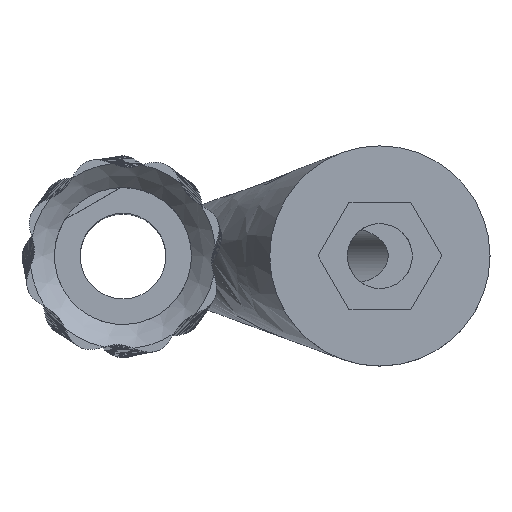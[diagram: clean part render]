
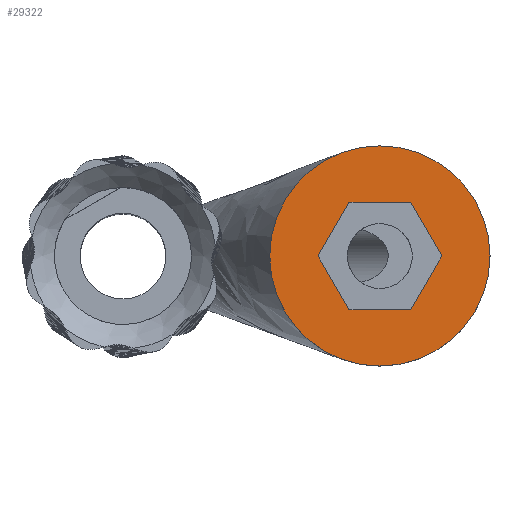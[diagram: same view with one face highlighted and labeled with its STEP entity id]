
A CAD part, top view. The second image highlights one B-rep face of the part: STEP entity #29322.
In plain terms, the highlighted planar face has unit normal (0, 0, 1).
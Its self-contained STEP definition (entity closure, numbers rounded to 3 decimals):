
#26232 = CYLINDRICAL_SURFACE('',#26233,18.);
#26233 = AXIS2_PLACEMENT_3D('',#26234,#26235,#26236);
#26234 = CARTESIAN_POINT('',(42.,0.,72.));
#26235 = DIRECTION('',(-0.,-0.,-1.));
#26236 = DIRECTION('',(1.,0.,0.));
#29272 = VERTEX_POINT('',#29273);
#29273 = CARTESIAN_POINT('',(60.,0.,80.));
#29294 = EDGE_CURVE('',#29272,#29272,#29295,.T.);
#29295 = SURFACE_CURVE('',#29296,(#29301,#29308),.PCURVE_S1.);
#29296 = CIRCLE('',#29297,18.);
#29297 = AXIS2_PLACEMENT_3D('',#29298,#29299,#29300);
#29298 = CARTESIAN_POINT('',(42.,0.,80.));
#29299 = DIRECTION('',(0.,0.,1.));
#29300 = DIRECTION('',(1.,0.,0.));
#29301 = PCURVE('',#26232,#29302);
#29302 = DEFINITIONAL_REPRESENTATION('',(#29303),#29307);
#29303 = LINE('',#29304,#29305);
#29304 = CARTESIAN_POINT('',(-0.,-8.));
#29305 = VECTOR('',#29306,1.);
#29306 = DIRECTION('',(-1.,0.));
#29307 = ( GEOMETRIC_REPRESENTATION_CONTEXT(2) 
PARAMETRIC_REPRESENTATION_CONTEXT() REPRESENTATION_CONTEXT('2D SPACE',''
  ) );
#29308 = PCURVE('',#29309,#29314);
#29309 = PLANE('',#29310);
#29310 = AXIS2_PLACEMENT_3D('',#29311,#29312,#29313);
#29311 = CARTESIAN_POINT('',(42.,0.,80.));
#29312 = DIRECTION('',(0.,0.,1.));
#29313 = DIRECTION('',(1.,0.,-0.));
#29314 = DEFINITIONAL_REPRESENTATION('',(#29315),#29319);
#29315 = CIRCLE('',#29316,18.);
#29316 = AXIS2_PLACEMENT_2D('',#29317,#29318);
#29317 = CARTESIAN_POINT('',(0.,0.));
#29318 = DIRECTION('',(1.,0.));
#29319 = ( GEOMETRIC_REPRESENTATION_CONTEXT(2) 
PARAMETRIC_REPRESENTATION_CONTEXT() REPRESENTATION_CONTEXT('2D SPACE',''
  ) );
#29322 = ADVANCED_FACE('',(#29323,#29326),#29309,.T.);
#29323 = FACE_BOUND('',#29324,.T.);
#29324 = EDGE_LOOP('',(#29325));
#29325 = ORIENTED_EDGE('',*,*,#29294,.T.);
#29326 = FACE_BOUND('',#29327,.T.);
#29327 = EDGE_LOOP('',(#29328,#29356,#29382,#29408,#29434,#29460));
#29328 = ORIENTED_EDGE('',*,*,#29329,.T.);
#29329 = EDGE_CURVE('',#29330,#29332,#29334,.T.);
#29330 = VERTEX_POINT('',#29331);
#29331 = CARTESIAN_POINT('',(36.943,8.76,80.));
#29332 = VERTEX_POINT('',#29333);
#29333 = CARTESIAN_POINT('',(47.057,8.76,80.));
#29334 = SURFACE_CURVE('',#29335,(#29339,#29345),.PCURVE_S1.);
#29335 = LINE('',#29336,#29337);
#29336 = CARTESIAN_POINT('',(44.529,8.76,80.));
#29337 = VECTOR('',#29338,1.);
#29338 = DIRECTION('',(1.,0.,-0.));
#29339 = PCURVE('',#29309,#29340);
#29340 = DEFINITIONAL_REPRESENTATION('',(#29341),#29344);
#29341 = B_SPLINE_CURVE_WITH_KNOTS('',1,(#29342,#29343),.UNSPECIFIED.,
  .F.,.F.,(2,2),(-7.586,2.529),
  .PIECEWISE_BEZIER_KNOTS.);
#29342 = CARTESIAN_POINT('',(-5.057,8.76));
#29343 = CARTESIAN_POINT('',(5.057,8.76));
#29344 = ( GEOMETRIC_REPRESENTATION_CONTEXT(2) 
PARAMETRIC_REPRESENTATION_CONTEXT() REPRESENTATION_CONTEXT('2D SPACE',''
  ) );
#29345 = PCURVE('',#29346,#29351);
#29346 = PLANE('',#29347);
#29347 = AXIS2_PLACEMENT_3D('',#29348,#29349,#29350);
#29348 = CARTESIAN_POINT('',(47.057,8.76,74.));
#29349 = DIRECTION('',(0.,-1.,0.));
#29350 = DIRECTION('',(-1.,0.,0.));
#29351 = DEFINITIONAL_REPRESENTATION('',(#29352),#29355);
#29352 = B_SPLINE_CURVE_WITH_KNOTS('',1,(#29353,#29354),.UNSPECIFIED.,
  .F.,.F.,(2,2),(-7.586,2.529),
  .PIECEWISE_BEZIER_KNOTS.);
#29353 = CARTESIAN_POINT('',(10.115,-6.));
#29354 = CARTESIAN_POINT('',(0.,-6.));
#29355 = ( GEOMETRIC_REPRESENTATION_CONTEXT(2) 
PARAMETRIC_REPRESENTATION_CONTEXT() REPRESENTATION_CONTEXT('2D SPACE',''
  ) );
#29356 = ORIENTED_EDGE('',*,*,#29357,.T.);
#29357 = EDGE_CURVE('',#29332,#29358,#29360,.T.);
#29358 = VERTEX_POINT('',#29359);
#29359 = CARTESIAN_POINT('',(52.115,0.,80.));
#29360 = SURFACE_CURVE('',#29361,(#29365,#29371),.PCURVE_S1.);
#29361 = LINE('',#29362,#29363);
#29362 = CARTESIAN_POINT('',(50.851,2.19,80.));
#29363 = VECTOR('',#29364,1.);
#29364 = DIRECTION('',(0.5,-0.866,0.));
#29365 = PCURVE('',#29309,#29366);
#29366 = DEFINITIONAL_REPRESENTATION('',(#29367),#29370);
#29367 = B_SPLINE_CURVE_WITH_KNOTS('',1,(#29368,#29369),.UNSPECIFIED.,
  .F.,.F.,(2,2),(-7.586,2.529),
  .PIECEWISE_BEZIER_KNOTS.);
#29368 = CARTESIAN_POINT('',(5.057,8.76));
#29369 = CARTESIAN_POINT('',(10.115,0.));
#29370 = ( GEOMETRIC_REPRESENTATION_CONTEXT(2) 
PARAMETRIC_REPRESENTATION_CONTEXT() REPRESENTATION_CONTEXT('2D SPACE',''
  ) );
#29371 = PCURVE('',#29372,#29377);
#29372 = PLANE('',#29373);
#29373 = AXIS2_PLACEMENT_3D('',#29374,#29375,#29376);
#29374 = CARTESIAN_POINT('',(52.115,0.,74.));
#29375 = DIRECTION('',(-0.866,-0.5,0.));
#29376 = DIRECTION('',(-0.5,0.866,0.));
#29377 = DEFINITIONAL_REPRESENTATION('',(#29378),#29381);
#29378 = B_SPLINE_CURVE_WITH_KNOTS('',1,(#29379,#29380),.UNSPECIFIED.,
  .F.,.F.,(2,2),(-7.586,2.529),
  .PIECEWISE_BEZIER_KNOTS.);
#29379 = CARTESIAN_POINT('',(10.115,-6.));
#29380 = CARTESIAN_POINT('',(0.,-6.));
#29381 = ( GEOMETRIC_REPRESENTATION_CONTEXT(2) 
PARAMETRIC_REPRESENTATION_CONTEXT() REPRESENTATION_CONTEXT('2D SPACE',''
  ) );
#29382 = ORIENTED_EDGE('',*,*,#29383,.T.);
#29383 = EDGE_CURVE('',#29358,#29384,#29386,.T.);
#29384 = VERTEX_POINT('',#29385);
#29385 = CARTESIAN_POINT('',(47.057,-8.76,80.));
#29386 = SURFACE_CURVE('',#29387,(#29391,#29397),.PCURVE_S1.);
#29387 = LINE('',#29388,#29389);
#29388 = CARTESIAN_POINT('',(48.322,-6.57,80.));
#29389 = VECTOR('',#29390,1.);
#29390 = DIRECTION('',(-0.5,-0.866,0.));
#29391 = PCURVE('',#29309,#29392);
#29392 = DEFINITIONAL_REPRESENTATION('',(#29393),#29396);
#29393 = B_SPLINE_CURVE_WITH_KNOTS('',1,(#29394,#29395),.UNSPECIFIED.,
  .F.,.F.,(2,2),(-7.586,2.529),
  .PIECEWISE_BEZIER_KNOTS.);
#29394 = CARTESIAN_POINT('',(10.115,0.));
#29395 = CARTESIAN_POINT('',(5.057,-8.76));
#29396 = ( GEOMETRIC_REPRESENTATION_CONTEXT(2) 
PARAMETRIC_REPRESENTATION_CONTEXT() REPRESENTATION_CONTEXT('2D SPACE',''
  ) );
#29397 = PCURVE('',#29398,#29403);
#29398 = PLANE('',#29399);
#29399 = AXIS2_PLACEMENT_3D('',#29400,#29401,#29402);
#29400 = CARTESIAN_POINT('',(47.057,-8.76,74.));
#29401 = DIRECTION('',(-0.866,0.5,0.));
#29402 = DIRECTION('',(0.5,0.866,0.));
#29403 = DEFINITIONAL_REPRESENTATION('',(#29404),#29407);
#29404 = B_SPLINE_CURVE_WITH_KNOTS('',1,(#29405,#29406),.UNSPECIFIED.,
  .F.,.F.,(2,2),(-7.586,2.529),
  .PIECEWISE_BEZIER_KNOTS.);
#29405 = CARTESIAN_POINT('',(10.115,-6.));
#29406 = CARTESIAN_POINT('',(0.,-6.));
#29407 = ( GEOMETRIC_REPRESENTATION_CONTEXT(2) 
PARAMETRIC_REPRESENTATION_CONTEXT() REPRESENTATION_CONTEXT('2D SPACE',''
  ) );
#29408 = ORIENTED_EDGE('',*,*,#29409,.T.);
#29409 = EDGE_CURVE('',#29384,#29410,#29412,.T.);
#29410 = VERTEX_POINT('',#29411);
#29411 = CARTESIAN_POINT('',(36.943,-8.76,80.));
#29412 = SURFACE_CURVE('',#29413,(#29417,#29423),.PCURVE_S1.);
#29413 = LINE('',#29414,#29415);
#29414 = CARTESIAN_POINT('',(39.471,-8.76,80.));
#29415 = VECTOR('',#29416,1.);
#29416 = DIRECTION('',(-1.,0.,0.));
#29417 = PCURVE('',#29309,#29418);
#29418 = DEFINITIONAL_REPRESENTATION('',(#29419),#29422);
#29419 = B_SPLINE_CURVE_WITH_KNOTS('',1,(#29420,#29421),.UNSPECIFIED.,
  .F.,.F.,(2,2),(-7.586,2.529),
  .PIECEWISE_BEZIER_KNOTS.);
#29420 = CARTESIAN_POINT('',(5.057,-8.76));
#29421 = CARTESIAN_POINT('',(-5.057,-8.76));
#29422 = ( GEOMETRIC_REPRESENTATION_CONTEXT(2) 
PARAMETRIC_REPRESENTATION_CONTEXT() REPRESENTATION_CONTEXT('2D SPACE',''
  ) );
#29423 = PCURVE('',#29424,#29429);
#29424 = PLANE('',#29425);
#29425 = AXIS2_PLACEMENT_3D('',#29426,#29427,#29428);
#29426 = CARTESIAN_POINT('',(36.943,-8.76,74.));
#29427 = DIRECTION('',(0.,1.,-0.));
#29428 = DIRECTION('',(1.,0.,0.));
#29429 = DEFINITIONAL_REPRESENTATION('',(#29430),#29433);
#29430 = B_SPLINE_CURVE_WITH_KNOTS('',1,(#29431,#29432),.UNSPECIFIED.,
  .F.,.F.,(2,2),(-7.586,2.529),
  .PIECEWISE_BEZIER_KNOTS.);
#29431 = CARTESIAN_POINT('',(10.115,-6.));
#29432 = CARTESIAN_POINT('',(0.,-6.));
#29433 = ( GEOMETRIC_REPRESENTATION_CONTEXT(2) 
PARAMETRIC_REPRESENTATION_CONTEXT() REPRESENTATION_CONTEXT('2D SPACE',''
  ) );
#29434 = ORIENTED_EDGE('',*,*,#29435,.T.);
#29435 = EDGE_CURVE('',#29410,#29436,#29438,.T.);
#29436 = VERTEX_POINT('',#29437);
#29437 = CARTESIAN_POINT('',(31.885,0.,80.));
#29438 = SURFACE_CURVE('',#29439,(#29443,#29449),.PCURVE_S1.);
#29439 = LINE('',#29440,#29441);
#29440 = CARTESIAN_POINT('',(33.149,-2.19,80.));
#29441 = VECTOR('',#29442,1.);
#29442 = DIRECTION('',(-0.5,0.866,0.));
#29443 = PCURVE('',#29309,#29444);
#29444 = DEFINITIONAL_REPRESENTATION('',(#29445),#29448);
#29445 = B_SPLINE_CURVE_WITH_KNOTS('',1,(#29446,#29447),.UNSPECIFIED.,
  .F.,.F.,(2,2),(-7.586,2.529),
  .PIECEWISE_BEZIER_KNOTS.);
#29446 = CARTESIAN_POINT('',(-5.057,-8.76));
#29447 = CARTESIAN_POINT('',(-10.115,0.));
#29448 = ( GEOMETRIC_REPRESENTATION_CONTEXT(2) 
PARAMETRIC_REPRESENTATION_CONTEXT() REPRESENTATION_CONTEXT('2D SPACE',''
  ) );
#29449 = PCURVE('',#29450,#29455);
#29450 = PLANE('',#29451);
#29451 = AXIS2_PLACEMENT_3D('',#29452,#29453,#29454);
#29452 = CARTESIAN_POINT('',(31.885,0.,74.));
#29453 = DIRECTION('',(0.866,0.5,-0.));
#29454 = DIRECTION('',(0.5,-0.866,0.));
#29455 = DEFINITIONAL_REPRESENTATION('',(#29456),#29459);
#29456 = B_SPLINE_CURVE_WITH_KNOTS('',1,(#29457,#29458),.UNSPECIFIED.,
  .F.,.F.,(2,2),(-7.586,2.529),
  .PIECEWISE_BEZIER_KNOTS.);
#29457 = CARTESIAN_POINT('',(10.115,-6.));
#29458 = CARTESIAN_POINT('',(0.,-6.));
#29459 = ( GEOMETRIC_REPRESENTATION_CONTEXT(2) 
PARAMETRIC_REPRESENTATION_CONTEXT() REPRESENTATION_CONTEXT('2D SPACE',''
  ) );
#29460 = ORIENTED_EDGE('',*,*,#29461,.T.);
#29461 = EDGE_CURVE('',#29436,#29330,#29462,.T.);
#29462 = SURFACE_CURVE('',#29463,(#29467,#29473),.PCURVE_S1.);
#29463 = LINE('',#29464,#29465);
#29464 = CARTESIAN_POINT('',(35.678,6.57,80.));
#29465 = VECTOR('',#29466,1.);
#29466 = DIRECTION('',(0.5,0.866,-0.));
#29467 = PCURVE('',#29309,#29468);
#29468 = DEFINITIONAL_REPRESENTATION('',(#29469),#29472);
#29469 = B_SPLINE_CURVE_WITH_KNOTS('',1,(#29470,#29471),.UNSPECIFIED.,
  .F.,.F.,(2,2),(-7.586,2.529),
  .PIECEWISE_BEZIER_KNOTS.);
#29470 = CARTESIAN_POINT('',(-10.115,0.));
#29471 = CARTESIAN_POINT('',(-5.057,8.76));
#29472 = ( GEOMETRIC_REPRESENTATION_CONTEXT(2) 
PARAMETRIC_REPRESENTATION_CONTEXT() REPRESENTATION_CONTEXT('2D SPACE',''
  ) );
#29473 = PCURVE('',#29474,#29479);
#29474 = PLANE('',#29475);
#29475 = AXIS2_PLACEMENT_3D('',#29476,#29477,#29478);
#29476 = CARTESIAN_POINT('',(36.943,8.76,74.));
#29477 = DIRECTION('',(0.866,-0.5,0.));
#29478 = DIRECTION('',(-0.5,-0.866,0.));
#29479 = DEFINITIONAL_REPRESENTATION('',(#29480),#29483);
#29480 = B_SPLINE_CURVE_WITH_KNOTS('',1,(#29481,#29482),.UNSPECIFIED.,
  .F.,.F.,(2,2),(-7.586,2.529),
  .PIECEWISE_BEZIER_KNOTS.);
#29481 = CARTESIAN_POINT('',(10.115,-6.));
#29482 = CARTESIAN_POINT('',(0.,-6.));
#29483 = ( GEOMETRIC_REPRESENTATION_CONTEXT(2) 
PARAMETRIC_REPRESENTATION_CONTEXT() REPRESENTATION_CONTEXT('2D SPACE',''
  ) );
